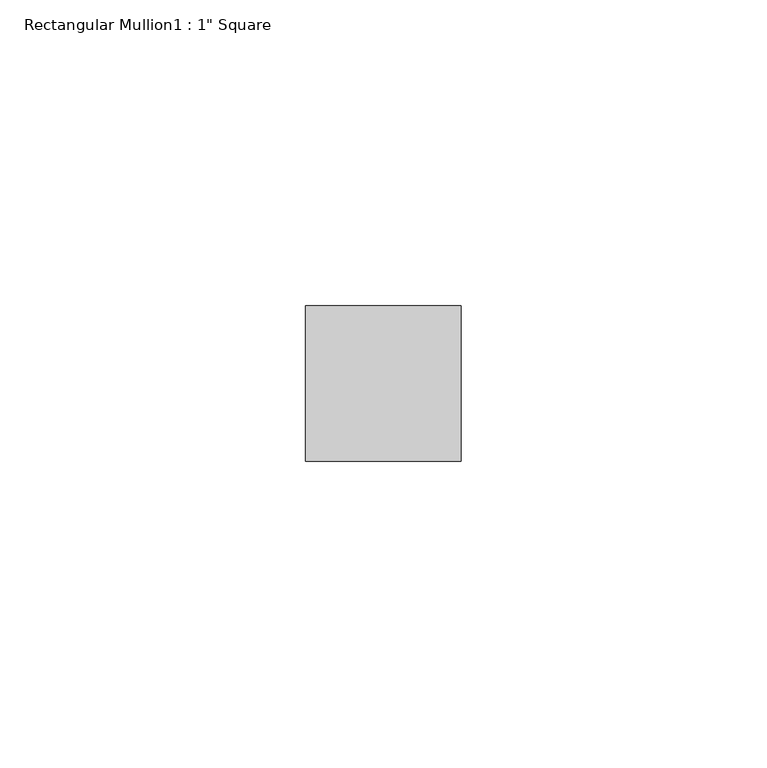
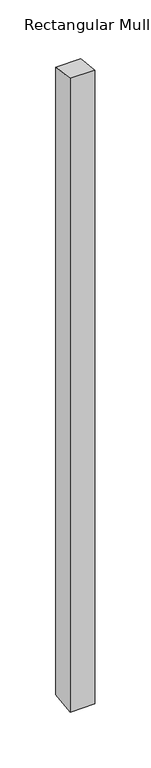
"""IFC4 building model written with IfcOpenShell, lengths in millimetres: member geometry."""

from ifc_helpers import new_model, si_unit, frame, origin, place, context, project, spatial, polyline, outline, extrude, source, transform, mapped, element, save


def member_9eb30bbd(model_context):
    return source(origin(), model_context, "Body", "SweptSolid", [
        extrude(outline(polyline([(-44.45, 5.6588474), (-19.05, 2.4252203), (-19.05, -682.4654832), (-44.45, -685.6991103), (-44.45, 5.6588474)])), frame((-25.4, 0.0, 0.0), z_axis=(1.0, 0.0, 0.0), x_axis=(0.0, 1.0, 0.0)), (0.0, 0.0, 1.0), 25.4),
    ])


if __name__ == "__main__":
    model = new_model("IFC4")
    model_context = context("Model", 3, world=origin())
    ifc_project = project(units=[si_unit("LENGTHUNIT", "METRE", prefix="MILLI")], contexts=[model_context])
    site = spatial("IfcSite", under=ifc_project)
    building = spatial("IfcBuilding", under=site)
    placement = place(None, origin())
    member_shape = member_9eb30bbd(model_context)
    element("IfcMember", 1, ObjectType="Rectangular Mullion1 : 1\" Square", at=placement, inside=building, context=model_context, shape_type="MappedRepresentation", body=[
        mapped(member_shape, transform((0.0, 0.0, 0.0), x_axis=(1.0, 0.0, 0.0), y_axis=(0.0, 1.0, 0.0), z_axis=(0.0, 0.0, 1.0))),
    ])
    save(model, "model.ifc")
